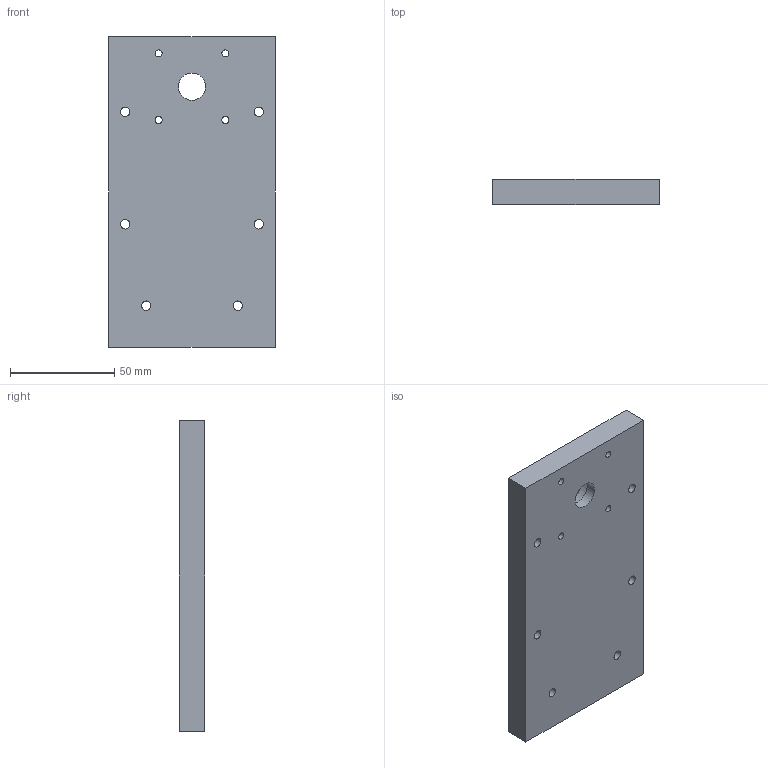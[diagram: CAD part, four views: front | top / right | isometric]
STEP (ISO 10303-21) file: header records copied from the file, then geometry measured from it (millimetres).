
FILE_DESCRIPTION(('Open CASCADE Model'),'2;1');
FILE_NAME('Open CASCADE Shape Model','2026-10-26T17:58:52',('Author'),( 'Open CASCADE'),'Open CASCADE STEP processor 7.9','Open CASCADE 7.9' ,'Unknown');
FILE_SCHEMA(('AUTOMOTIVE_DESIGN { 1 0 10303 214 1 1 1 1 }'));
Length unit declared in the file: millimetre
Products named in the file (1): Open CASCADE STEP translator 7.9 7
Bounding box: 80 x 12 x 149 mm (x, y, z)
Volume: 138035 mm3; surface area: 31035.8 mm2
Topology: 1 solids, 1 shells, 19 faces, 48 edges, 32 vertices
Faces by surface type: cylinder 12, plane 7
Full cylindrical faces by diameter (mm): 3.4 x4, 4.5 x6, 13 x1, 22.2 x1
Entity records: 1264 total; most frequent: DIRECTION 208, CARTESIAN_POINT 196, ORIENTED_EDGE 96, LINE 96, VECTOR 96, PCURVE 96, DEFINITIONAL_REPRESENTATION 96, EDGE_CURVE 48
